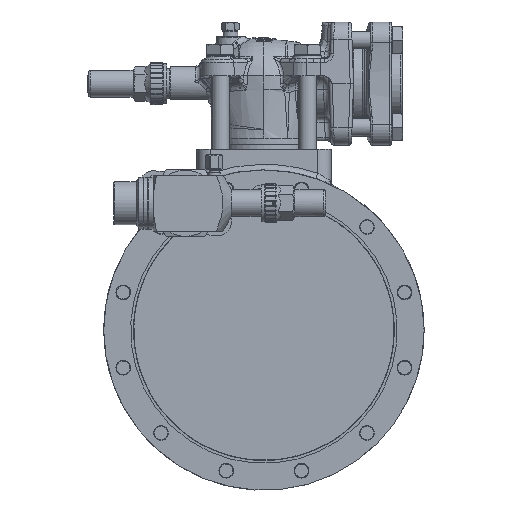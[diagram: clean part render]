
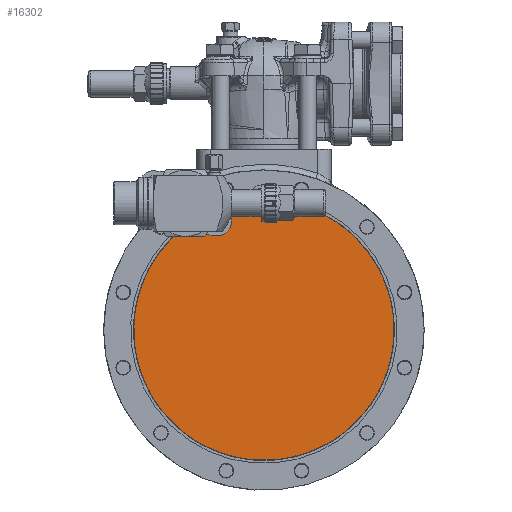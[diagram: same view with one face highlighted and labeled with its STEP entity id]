
A CAD part, left-side view. The second image highlights one B-rep face of the part: STEP entity #16302.
In plain terms, the highlighted planar face has unit normal (-1, 0, 0) as drawn and (1, 0, 0) by its records, which use the part's own axes.
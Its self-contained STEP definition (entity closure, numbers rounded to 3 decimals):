
#9473=FACE_OUTER_BOUND('',#26430,.T.);
#16302=ADVANCED_FACE('',(#9473),#17780,.T.);
#17780=PLANE('',#57004);
#26430=EDGE_LOOP('',(#39323,#39324));
#39323=ORIENTED_EDGE('',*,*,#52137,.T.);
#39324=ORIENTED_EDGE('',*,*,#52138,.T.);
#45151=VERTEX_POINT('',#116230);
#45152=VERTEX_POINT('',#116231);
#52137=EDGE_CURVE('',#45151,#45152,#54016,.T.);
#52138=EDGE_CURVE('',#45152,#45151,#54017,.T.);
#54016=CIRCLE('',#57002,116.4);
#54017=CIRCLE('',#57003,12.);
#57002=AXIS2_PLACEMENT_3D('',#116229,#65647,#65648);
#57003=AXIS2_PLACEMENT_3D('',#116232,#65649,#65650);
#57004=AXIS2_PLACEMENT_3D('',#116233,#65651,#65652);
#65647=DIRECTION('',(1.,0.,0.));
#65648=DIRECTION('',(0.,0.,-1.));
#65649=DIRECTION('',(1.,0.,0.));
#65650=DIRECTION('',(0.,0.,-1.));
#65651=DIRECTION('',(1.,0.,0.));
#65652=DIRECTION('',(0.,0.,-1.));
#116229=CARTESIAN_POINT('',(150.773,47.708,0.));
#116230=CARTESIAN_POINT('',(150.773,35.734,115.782));
#116231=CARTESIAN_POINT('',(150.773,59.683,115.782));
#116232=CARTESIAN_POINT('',(150.773,47.708,115.));
#116233=CARTESIAN_POINT('',(150.773,35.234,115.282));
